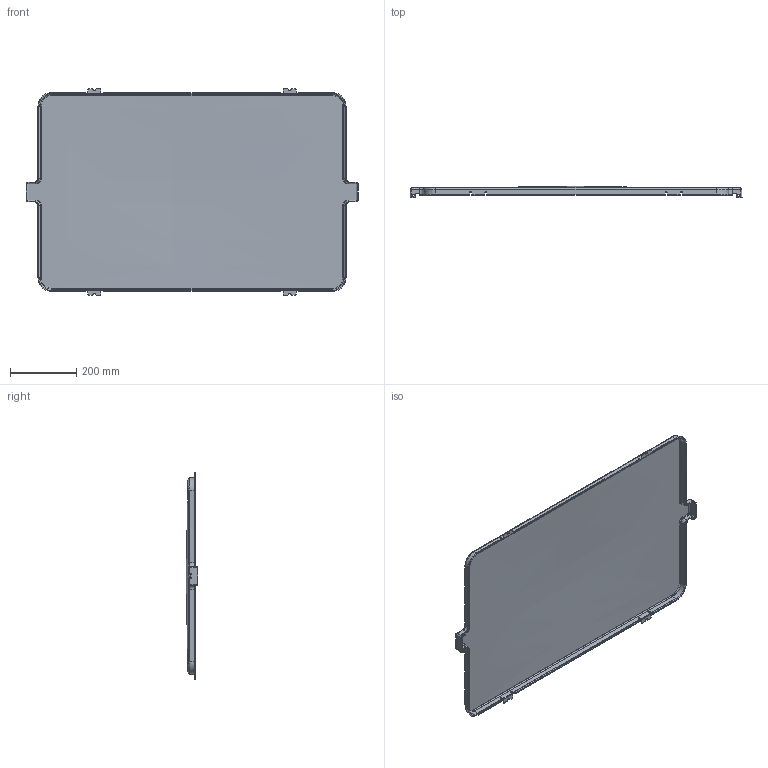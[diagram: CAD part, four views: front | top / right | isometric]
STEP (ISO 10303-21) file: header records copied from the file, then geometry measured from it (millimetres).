
FILE_DESCRIPTION (( 'STEP AP214' ), '1' );
FILE_NAME ('D0066408#19_158988.STEP', '2026-02-26T12:15:26', ( '' ), ( '' ), 'SwSTEP 2.0', 'SolidWorks 2024', '' );
FILE_SCHEMA (( 'AUTOMOTIVE_DESIGN' ));
Length unit declared in the file: millimetre
Products named in the file (1): D0066408#19_158988
Bounding box: 1004.47 x 33.82 x 624 mm (x, y, z)
Volume: 1237501 mm3; surface area: 1244768.9 mm2
Topology: 1 solids, 1 shells, 302 faces, 812 edges, 512 vertices
Faces by surface type: cylinder 116, plane 104, bspline 42, cone 16, torus 16, sphere 8
Entity records: 14464 total; most frequent: CARTESIAN_POINT 7230, ORIENTED_EDGE 1624, DIRECTION 1414, EDGE_CURVE 812, VERTEX_POINT 512, AXIS2_PLACEMENT_3D 501, LINE 412, VECTOR 412
